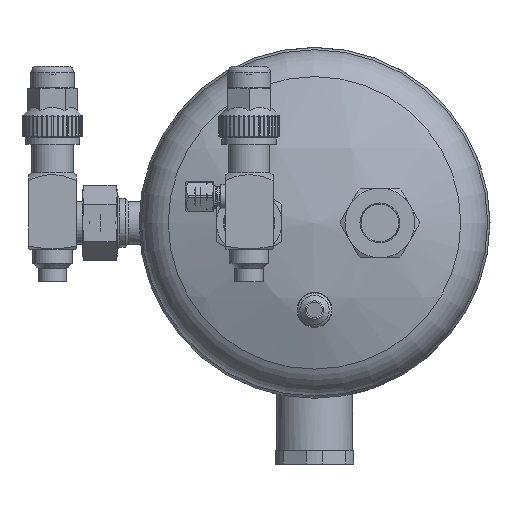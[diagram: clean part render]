
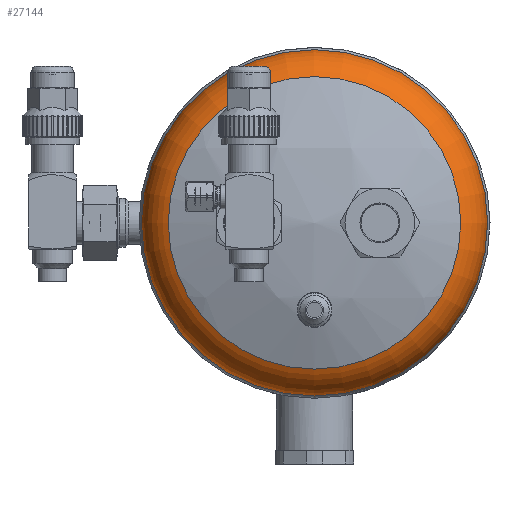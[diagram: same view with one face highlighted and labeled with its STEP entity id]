
A CAD part, front view. The second image highlights one B-rep face of the part: STEP entity #27144.
In plain terms, the highlighted toroidal (fillet/blend) face has major radius 58.6 mm and minor radius 20.9 mm.
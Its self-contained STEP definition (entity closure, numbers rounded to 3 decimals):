
#6340=FACE_BOUND('',#9370,.T.);
#6449=TOROIDAL_SURFACE('',#29228,58.6,20.9);
#7657=FACE_OUTER_BOUND('',#9369,.T.);
#9369=EDGE_LOOP('',(#23476));
#9370=EDGE_LOOP('',(#23477));
#10322=CIRCLE('',#29227,79.5);
#10323=CIRCLE('',#29229,67.159);
#12731=VERTEX_POINT('',#54012);
#12732=VERTEX_POINT('',#54015);
#16426=EDGE_CURVE('',#12731,#12731,#10322,.T.);
#16427=EDGE_CURVE('',#12732,#12732,#10323,.T.);
#23476=ORIENTED_EDGE('',*,*,#16427,.F.);
#23477=ORIENTED_EDGE('',*,*,#16426,.T.);
#27144=ADVANCED_FACE('',(#7657,#6340),#6449,.T.);
#29227=AXIS2_PLACEMENT_3D('',#54013,#34743,#34744);
#29228=AXIS2_PLACEMENT_3D('',#54014,#34745,#34746);
#29229=AXIS2_PLACEMENT_3D('',#54016,#34747,#34748);
#34743=DIRECTION('center_axis',(0.,-1.,0.));
#34744=DIRECTION('ref_axis',(-1.,0.,0.));
#34745=DIRECTION('center_axis',(0.,-1.,0.));
#34746=DIRECTION('ref_axis',(0.,0.,-1.));
#34747=DIRECTION('center_axis',(0.,-1.,0.));
#34748=DIRECTION('ref_axis',(-1.,0.,0.));
#54012=CARTESIAN_POINT('',(-79.5,-636.563,0.));
#54013=CARTESIAN_POINT('Origin',(0.,-636.563,
0.));
#54014=CARTESIAN_POINT('Origin',(0.,-636.563,
0.));
#54015=CARTESIAN_POINT('',(-67.159,-655.63,0.));
#54016=CARTESIAN_POINT('Origin',(0.,-655.63,
0.));
